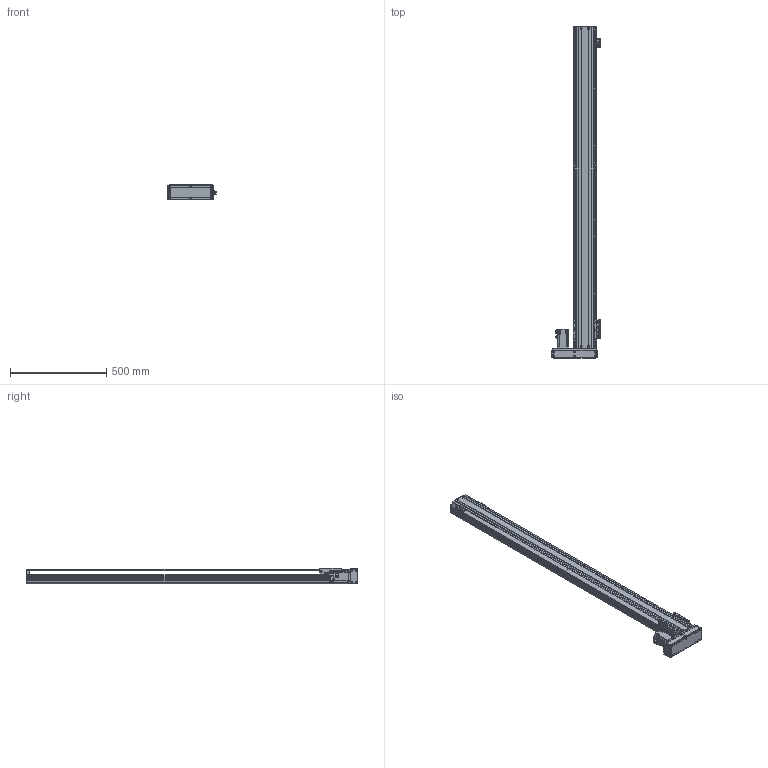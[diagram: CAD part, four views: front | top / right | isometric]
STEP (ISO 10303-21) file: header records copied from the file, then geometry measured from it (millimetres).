
FILE_DESCRIPTION(/* description */ ('MANUFACTURE'),/* implementation_level */ '2;1');
FILE_NAME(/* name */ '\\192.168.0.160\disk1\HAN SHIN Master\B-설계부문\C-표준\B-2024년\BC02-표준도면\+로봇 개선표준도면\홈페이지 표준 도면\홈페이지 최종 작업 폴더\3D\HR\HR120\HR120병렬\좌병렬\HR120-L40-N-1500-R10.stp',/* time_stamp */ '2025-01-20T18:16:37+09:00',/* author */ ('user'),/* organization */ (''),/* preprocessor_version */ 'ST-DEVELOPER v18.1',/* originating_system */ 'Autodesk Inventor 2022',/* authorisation */ 'LIP');
FILE_SCHEMA (('CONFIG_CONTROL_DESIGN'));
Products named in the file (19): HG120-L40-N-0500-R10; HR120 S BASE; HR(HG) 120,130 FRONT BLOCK; HR(HG) 120,130 FRONT BLOCK_1; HR120 FRONT COVER; HG5UPCOV003; HR120 SENSOR DOG; HG120 TABLE-N; HR120 STOPPER; HR120 LR MOTOR PLATE (400W)-사출; MOTOR PLATE - 200W; hg-kr43_; 화살표; HR120 LR BELT COVER; HR160 ACRYL COVER - 1; HR160 ACRYL COVER - 1_1; HR160 ACRYL COVER - 1_2; SENSOR BRK(EE-SX674A); EE_SX674A
Assembly tree (24 placements, depth 2):
  HG120-L40-N-0500-R10
    HR120 S BASE
    HR(HG) 120,130 FRONT BLOCK
    HR(HG) 120,130 FRONT BLOCK_1
    HR120 FRONT COVER
    SENSOR BRK(EE-SX674A)  x3
    HG5UPCOV003
    HR120 SENSOR DOG
    HG120 TABLE-N
    EE_SX674A  x3
    HR120 STOPPER
    HR120 LR MOTOR PLATE (400W)-사출
    MOTOR PLATE - 200W
    hg-kr43_
    화살표  x2
    HR120 LR BELT COVER
    HR160 ACRYL COVER - 1
    HR160 ACRYL COVER - 1_1
    HR160 ACRYL COVER - 1_2  x2
Bounding box: 250 x 1723 x 80 mm (x, y, z)
Volume: 4400017.3 mm3; surface area: 1777894.1 mm2
Topology: 24 solids, 24 shells, 3097 faces, 8872 edges, 5862 vertices
Faces by surface type: plane 2211, cylinder 742, cone 144
Full cylindrical faces by diameter (mm): 2.459 x50, 3 x4, 3.242 x48, 3.4 x20, 3.5 x6, 4.134 x44, 4.5 x56, 4.917 x6, 5 x26, 5.5 x33, 5.8 x4, 5.9 x8, 6 x4, 6.6 x2, 7 x4, 7.5 x16, 8 x4, 9 x6, 9.5 x21, 14 x1, 17 x1, 20 x1, 22 x1, 24 x1, 28 x1, 32 x2, 33.7 x1, 50 x2
Entity records: 98718 total; most frequent: CARTESIAN_POINT 19952, ORIENTED_EDGE 16492, DIRECTION 15282, EDGE_CURVE 8246, LINE 6556, VECTOR 6556, VERTEX_POINT 5514, AXIS2_PLACEMENT_3D 4363
